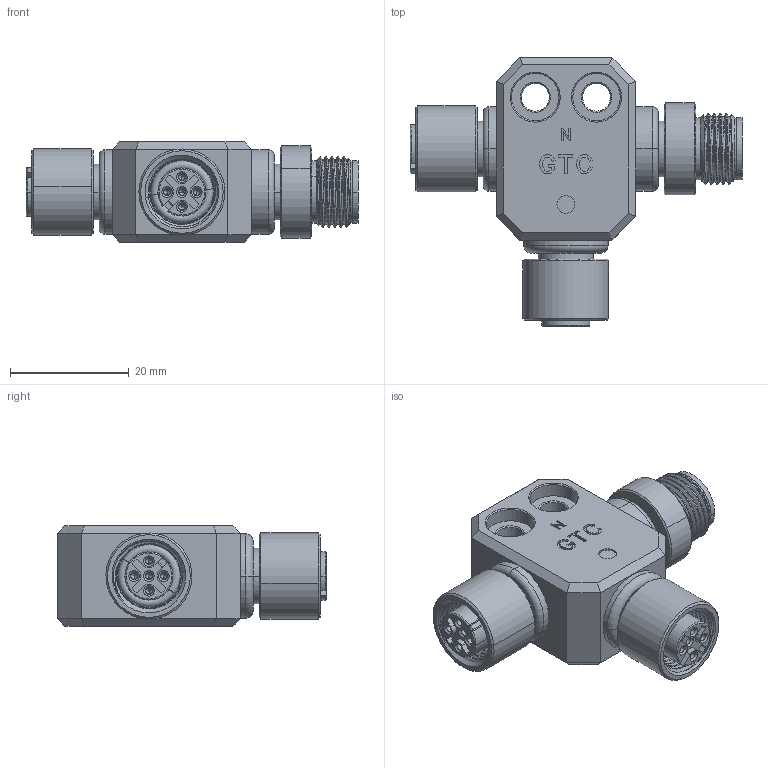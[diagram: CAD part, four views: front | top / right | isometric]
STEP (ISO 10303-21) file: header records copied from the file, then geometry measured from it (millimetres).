
FILE_DESCRIPTION (( 'STEP AP203' ), '1' );
FILE_NAME ('RR-2731F6-21050.STEP', '2019-01-11T09:15:08', ( '' ), ( '' ), 'SwSTEP 2.0', 'SolidWorks 2018', '' );
FILE_SCHEMA (( 'CONFIG_CONTROL_DESIGN' ));
Length unit declared in the file: millimetre
Products named in the file (1): RR-2731F6-21050
Bounding box: 55.9 x 45.2 x 16.85 mm (x, y, z)
Volume: 15953.9 mm3; surface area: 9983.4 mm2
Topology: 6 solids, 6 shells, 810 faces, 2100 edges, 1334 vertices
Faces by surface type: plane 392, cylinder 242, cone 127, torus 30, sphere 10, bspline 9
Entity records: 32867 total; most frequent: CARTESIAN_POINT 12844, DIRECTION 4201, ORIENTED_EDGE 4140, EDGE_CURVE 2070, AXIS2_PLACEMENT_3D 1475, VERTEX_POINT 1334, LINE 1251, VECTOR 1251
